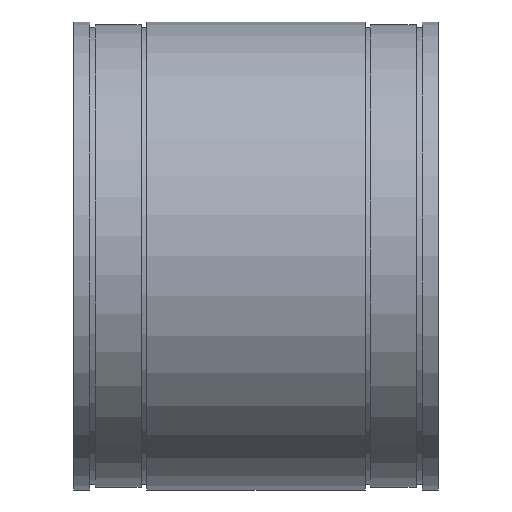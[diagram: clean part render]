
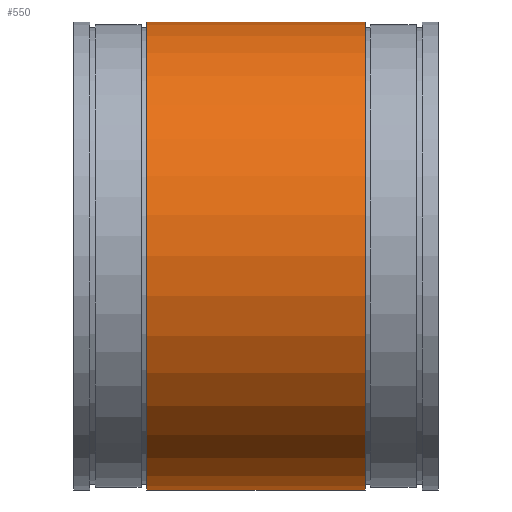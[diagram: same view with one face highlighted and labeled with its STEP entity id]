
A CAD part, top view. The second image highlights one B-rep face of the part: STEP entity #550.
In plain terms, the highlighted cylindrical face has radius 65.151 mm (diameter 130.302 mm), a full revolution.
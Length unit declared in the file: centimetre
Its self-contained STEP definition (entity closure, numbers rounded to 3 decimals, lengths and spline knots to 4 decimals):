
#198=VERTEX_POINT('',#786);
#199=VERTEX_POINT('',#789);
#244=CIRCLE('',#587,6.5151);
#245=CIRCLE('',#589,6.5151);
#264=EDGE_CURVE('',#198,#198,#244,.T.);
#265=EDGE_CURVE('',#199,#199,#245,.T.);
#330=ORIENTED_EDGE('',*,*,#265,.F.);
#331=ORIENTED_EDGE('',*,*,#264,.T.);
#454=EDGE_LOOP('',(#330));
#455=EDGE_LOOP('',(#331));
#504=FACE_BOUND('',#454,.T.);
#505=FACE_BOUND('',#455,.T.);
#550=ADVANCED_FACE('',(#504,#505),#921,.T.);
#587=AXIS2_PLACEMENT_3D('',#785,#651,#652);
#588=AXIS2_PLACEMENT_3D('',#787,#653,#654);
#589=AXIS2_PLACEMENT_3D('',#788,#655,#656);
#651=DIRECTION('',(1.,0.,0.));
#652=DIRECTION('',(0.,6.515,0.));
#653=DIRECTION('',(1.,0.,0.));
#654=DIRECTION('',(0.,6.515,0.));
#655=DIRECTION('',(1.,0.,0.));
#656=DIRECTION('',(0.,6.515,0.));
#785=CARTESIAN_POINT('',(2.0447,0.,0.));
#786=CARTESIAN_POINT('',(2.0447,6.5151,0.));
#787=CARTESIAN_POINT('',(5.08,0.,0.));
#788=CARTESIAN_POINT('',(8.1153,0.,0.));
#789=CARTESIAN_POINT('',(8.1153,6.5151,0.));
#921=CYLINDRICAL_SURFACE('',#588,6.5151);
